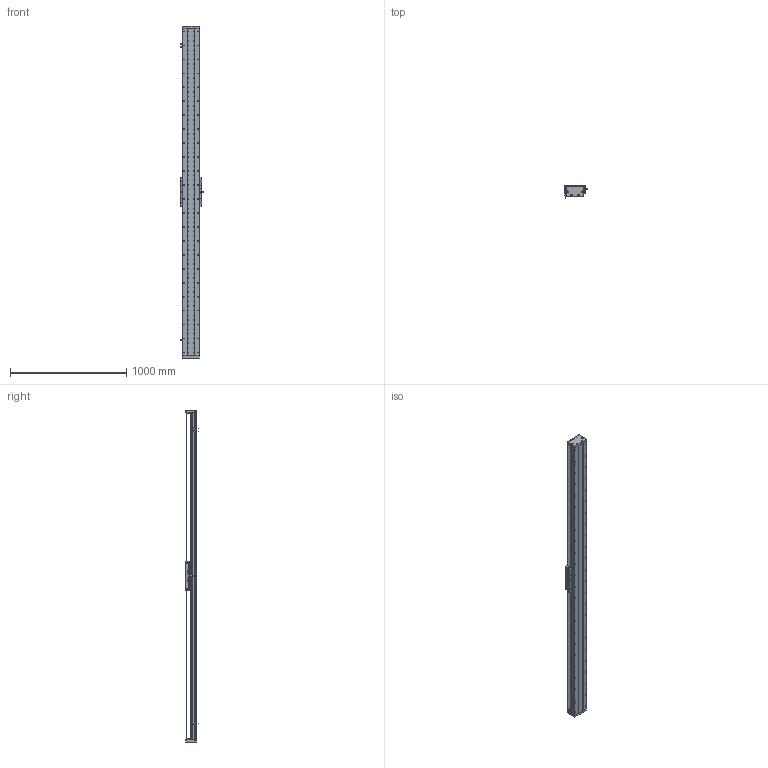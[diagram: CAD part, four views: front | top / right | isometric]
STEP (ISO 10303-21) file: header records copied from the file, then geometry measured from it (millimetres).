
FILE_DESCRIPTION (( 'STEP AP203' ), '1' );
FILE_NAME ('DA-C145-C3-T2520-C010-0.2 眻盄萇儂.STEP', '2025-08-14T01:33:47', ( '' ), ( '' ), 'SwSTEP 2.0', 'SolidWorks 2019', '' );
FILE_SCHEMA (( 'CONFIG_CONTROL_DESIGN' ));
Length unit declared in the file: millimetre
Products named in the file (32): 葩璃 DA95-HXJ-00 遣喳砎蝶^DA-C145-C3-T-C010-0.2; 复件 半圆头内六角螺钉 M3×6^CU145-W 滚珠滑台; TAY01-M8; IU-CU145-L 菁釱絳寢; 葩璃 DMA-010-0.2 黍杅芛^DA-C145-C3-T-C010-0.2; CU145-W 幗紩賑怢; 葩璃 PM-T45^DA-C145-C3-T-C010-0.2; IU-CU145-L-00 菁釱(L2820); 复件 纯铜油杯 6x6mm^CU145-W 滚珠滑台; 复件 DA95-DB-00  挡板^CU145-W 滚珠滑台; 66245-CU145-HT-W-00 賑雄怢啣(3D芞祧)(00); 葩璃 DA95-GT-T-00^IU-CU145-L 菁釱絳寢; 复件 DA145-C3-DK-00 挡块^CU145-W 滚珠滑台; 复件 DA146 钢带拉块^复件 CU145 钢带组件_DA-C145-C3-T-C010-0.2; 复件 DA145-C3-YB-A-00 压板A^CU145-W 滚珠滑台; 葩璃 DA145-C3-DP-B-00 菜えB^CU145-W 幗紩賑怢; 复件 DA146 钢带垫块^复件 CU145 钢带组件_DA-C145-C3-T-C010-0.2; 复件 DA95-MFP-01 密封片^CU145-W 滚珠滑台; 复件 DA145-GYP-00 光电感应片^DA-C145-C3-T-C010-0.2; 葩璃 CU145 詩湍郪璃^DA-C145-C3-T-C010-0.2; 葩璃 DA145-C3-DP-A-00 菜えA^CU145-W 幗紩賑怢; CU145-W-00 珨极趙賑雄怢啣; 复件 DA145 钢带^复件 CU145 钢带组件_DA-C145-C3-T-C010-0.2; DA-C145-C3-T2520-C010-0.2 眻盄萇儂; 复件 DA145-C3-YB-B-00 压板B^CU145-W 滚珠滑台; 复件 内六角平端紧定螺钉 GB.T77-2000 M5×10^CU145-W 滚珠滑台; 葩璃 XD-U-02L 棠掑喜^DA-C145-C3-T-C010-0.2; 复件 DA95-HK-GT-00 滑块钢轨^CU145-W-00 一体化滑动台板; 葩璃 CKM03-W060-C1C2-TP-0.2^DA-C145-C3-T-C010-0.2; 葩璃 鞠褒情蹟譫 M3^DA-C145-C3-T-C010-0.2; 葩璃 CKMA01-W060-TRL^DA-C145-C3-T-C010-0.2; 复件 DA145-DG 钢带端盖^复件 CU145 钢带组件_DA-C145-C3-T-C010-0.2
Assembly tree (103 placements, depth 4):
  DA-C145-C3-T2520-C010-0.2 眻盄萇儂
    IU-CU145-L 菁釱絳寢
      IU-CU145-L-00 菁釱(L2820)
      葩璃 DA95-GT-T-00^IU-CU145-L 菁釱絳寢  x4
    葩璃 CU145 詩湍郪璃^DA-C145-C3-T-C010-0.2
      复件 DA145-DG 钢带端盖^复件 CU145 钢带组件_DA-C145-C3-T-C010-0.2  x2
      复件 DA146 钢带拉块^复件 CU145 钢带组件_DA-C145-C3-T-C010-0.2  x2
      复件 DA146 钢带垫块^复件 CU145 钢带组件_DA-C145-C3-T-C010-0.2  x2
      复件 DA145 钢带^复件 CU145 钢带组件_DA-C145-C3-T-C010-0.2
    CU145-W 幗紩賑怢
      CU145-W-00 珨极趙賑雄怢啣
        66245-CU145-HT-W-00 賑雄怢啣(3D芞祧)(00)
        复件 DA95-HK-GT-00 滑块钢轨^CU145-W-00 一体化滑动台板  x8
      复件 DA95-MFP-01 密封片^CU145-W 滚珠滑台  x8
      复件 DA95-DB-00  挡板^CU145-W 滚珠滑台  x8
      复件 内六角平端紧定螺钉 GB.T77-2000 M5×10^CU145-W 滚珠滑台  x4
      复件 纯铜油杯 6x6mm^CU145-W 滚珠滑台  x4
      复件 半圆头内六角螺钉 M3×6^CU145-W 滚珠滑台  x16
      复件 DA145-C3-DK-00 挡块^CU145-W 滚珠滑台  x4
      葩璃 DA145-C3-DP-B-00 菜えB^CU145-W 幗紩賑怢  x2
      复件 DA145-C3-YB-B-00 压板B^CU145-W 滚珠滑台  x2
      葩璃 DA145-C3-DP-A-00 菜えA^CU145-W 幗紩賑怢  x3
      复件 DA145-C3-YB-A-00 压板A^CU145-W 滚珠滑台  x3
      TAY01-M8  x4
    葩璃 CKMA01-W060-TRL^DA-C145-C3-T-C010-0.2
    葩璃 PM-T45^DA-C145-C3-T-C010-0.2  x3
    葩璃 XD-U-02L 棠掑喜^DA-C145-C3-T-C010-0.2
    葩璃 DA95-HXJ-00 遣喳砎蝶^DA-C145-C3-T-C010-0.2  x4
    复件 DA145-GYP-00 光电感应片^DA-C145-C3-T-C010-0.2
    葩璃 DMA-010-0.2 黍杅芛^DA-C145-C3-T-C010-0.2
    葩璃 CKM03-W060-C1C2-TP-0.2^DA-C145-C3-T-C010-0.2
    葩璃 鞠褒情蹟譫 M3^DA-C145-C3-T-C010-0.2  x8
Bounding box: 203.5 x 108.45 x 2856 mm (x, y, z)
Volume: 13269612.1 mm3; surface area: 4451374.8 mm2
Topology: 99 solids, 131 shells, 4747 faces, 13670 edges, 8578 vertices
Faces by surface type: cylinder 2379, plane 1600, cone 690, torus 74, sphere 4
Entity records: 133556 total; most frequent: CARTESIAN_POINT 40458, ORIENTED_EDGE 18860, DIRECTION 17813, EDGE_CURVE 9430, AXIS2_PLACEMENT_3D 6696, VERTEX_POINT 6117, VECTOR 4421, LINE 4421
